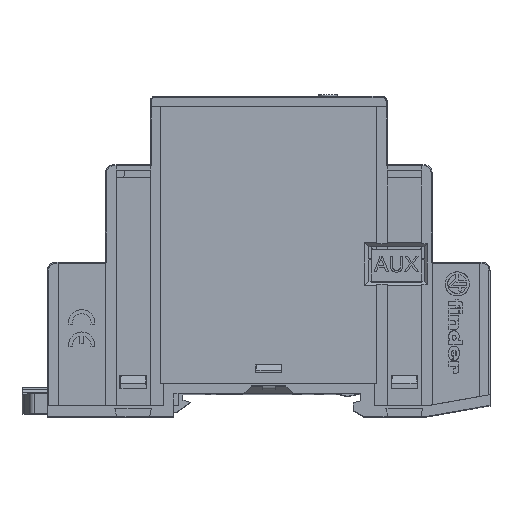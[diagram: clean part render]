
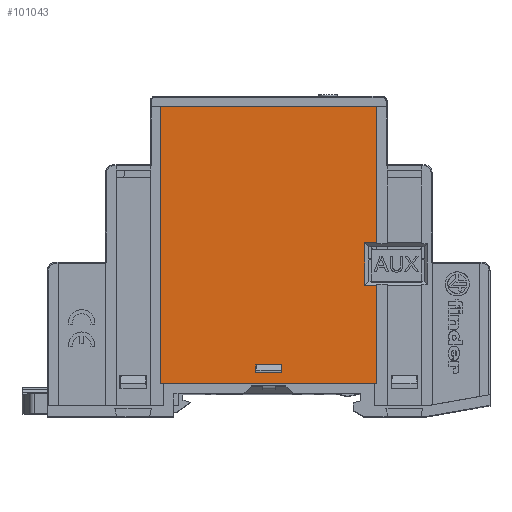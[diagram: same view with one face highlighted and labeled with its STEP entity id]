
A CAD part, top view. The second image highlights one B-rep face of the part: STEP entity #101043.
In plain terms, the highlighted planar face has unit normal (0, 0, 1).
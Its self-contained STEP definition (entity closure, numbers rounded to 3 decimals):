
#9505=LINE('',#163294,#23189);
#9522=LINE('',#163327,#23206);
#9575=LINE('',#163458,#23259);
#9617=LINE('',#163571,#23301);
#9619=LINE('',#163575,#23303);
#9620=LINE('',#163578,#23304);
#9621=LINE('',#163580,#23305);
#9622=LINE('',#163582,#23306);
#9623=LINE('',#163583,#23307);
#9624=LINE('',#163585,#23308);
#9625=LINE('',#163586,#23309);
#9626=LINE('',#163587,#23310);
#23189=VECTOR('',#133035,1000.);
#23206=VECTOR('',#133062,1000.);
#23259=VECTOR('',#133167,1000.);
#23301=VECTOR('',#133229,1000.);
#23303=VECTOR('',#133233,1000.);
#23304=VECTOR('',#133234,1000.);
#23305=VECTOR('',#133235,1000.);
#23306=VECTOR('',#133236,1000.);
#23307=VECTOR('',#133237,1000.);
#23308=VECTOR('',#133238,1000.);
#23309=VECTOR('',#133239,1000.);
#23310=VECTOR('',#133240,1000.);
#30865=PLANE('',#113645);
#50139=ORIENTED_EDGE('',*,*,#69711,.T.);
#50140=ORIENTED_EDGE('',*,*,#69712,.F.);
#50141=ORIENTED_EDGE('',*,*,#69713,.F.);
#50142=ORIENTED_EDGE('',*,*,#69714,.F.);
#50143=ORIENTED_EDGE('',*,*,#69709,.F.);
#50144=ORIENTED_EDGE('',*,*,#69715,.F.);
#50145=ORIENTED_EDGE('',*,*,#69716,.F.);
#50146=ORIENTED_EDGE('',*,*,#69582,.F.);
#50147=ORIENTED_EDGE('',*,*,#69599,.F.);
#50148=ORIENTED_EDGE('',*,*,#69717,.F.);
#50149=ORIENTED_EDGE('',*,*,#69664,.T.);
#50150=ORIENTED_EDGE('',*,*,#69718,.F.);
#69582=EDGE_CURVE('',#81874,#81875,#9505,.T.);
#69599=EDGE_CURVE('',#81886,#81874,#9522,.T.);
#69664=EDGE_CURVE('',#81938,#81937,#9575,.T.);
#69709=EDGE_CURVE('',#81968,#81969,#9617,.T.);
#69711=EDGE_CURVE('',#81970,#81971,#9619,.T.);
#69712=EDGE_CURVE('',#81972,#81971,#9620,.T.);
#69713=EDGE_CURVE('',#81973,#81972,#9621,.T.);
#69714=EDGE_CURVE('',#81970,#81973,#9622,.T.);
#69715=EDGE_CURVE('',#81974,#81968,#9623,.T.);
#69716=EDGE_CURVE('',#81875,#81974,#9624,.T.);
#69717=EDGE_CURVE('',#81938,#81886,#9625,.T.);
#69718=EDGE_CURVE('',#81969,#81937,#9626,.T.);
#81874=VERTEX_POINT('',#163293);
#81875=VERTEX_POINT('',#163295);
#81886=VERTEX_POINT('',#163328);
#81937=VERTEX_POINT('',#163457);
#81938=VERTEX_POINT('',#163459);
#81968=VERTEX_POINT('',#163570);
#81969=VERTEX_POINT('',#163572);
#81970=VERTEX_POINT('',#163576);
#81971=VERTEX_POINT('',#163577);
#81972=VERTEX_POINT('',#163579);
#81973=VERTEX_POINT('',#163581);
#81974=VERTEX_POINT('',#163584);
#90540=EDGE_LOOP('',(#50139,#50140,#50141,#50142));
#90541=EDGE_LOOP('',(#50143,#50144,#50145,#50146,#50147,#50148,#50149,#50150));
#95964=FACE_BOUND('',#90540,.T.);
#95965=FACE_BOUND('',#90541,.T.);
#101043=ADVANCED_FACE('',(#95964,#95965),#30865,.T.);
#113645=AXIS2_PLACEMENT_3D('',#163574,#133231,#133232);
#133035=DIRECTION('',(-1.,0.,0.));
#133062=DIRECTION('',(0.,-1.,0.));
#133167=DIRECTION('',(0.,-1.,0.));
#133229=DIRECTION('',(0.,-1.,0.));
#133231=DIRECTION('',(0.,0.,1.));
#133232=DIRECTION('',(1.,0.,0.));
#133233=DIRECTION('',(0.,-1.,0.));
#133234=DIRECTION('',(1.,0.,0.));
#133235=DIRECTION('',(0.,-1.,0.));
#133236=DIRECTION('',(-1.,0.,0.));
#133237=DIRECTION('',(1.,0.,0.));
#133238=DIRECTION('',(0.,-1.,0.));
#133239=DIRECTION('',(1.,0.,0.));
#133240=DIRECTION('',(-1.,0.,0.));
#163293=CARTESIAN_POINT('',(20.5,-20.3,-100.));
#163294=CARTESIAN_POINT('',(-20.501,-20.3,-100.));
#163295=CARTESIAN_POINT('',(18.2,-20.3,-100.));
#163327=CARTESIAN_POINT('',(20.5,5.5,-100.));
#163328=CARTESIAN_POINT('',(20.5,5.5,-100.));
#163457=CARTESIAN_POINT('',(-20.5,-47.,-100.));
#163458=CARTESIAN_POINT('',(-20.5,5.5,-100.));
#163459=CARTESIAN_POINT('',(-20.5,5.5,-100.));
#163570=CARTESIAN_POINT('',(20.5,-28.4,-100.));
#163571=CARTESIAN_POINT('',(20.5,5.5,-100.));
#163572=CARTESIAN_POINT('',(20.5,-47.,-100.));
#163574=CARTESIAN_POINT('',(-20.501,-47.001,-100.));
#163575=CARTESIAN_POINT('',(2.5,-43.5,-100.));
#163576=CARTESIAN_POINT('',(2.5,-43.5,-100.));
#163577=CARTESIAN_POINT('',(2.5,-45.,-100.));
#163578=CARTESIAN_POINT('',(-2.5,-45.,-100.));
#163579=CARTESIAN_POINT('',(-2.5,-45.,-100.));
#163580=CARTESIAN_POINT('',(-2.5,-43.5,-100.));
#163581=CARTESIAN_POINT('',(-2.5,-43.5,-100.));
#163582=CARTESIAN_POINT('',(2.5,-43.5,-100.));
#163583=CARTESIAN_POINT('',(-20.501,-28.4,-100.));
#163584=CARTESIAN_POINT('',(18.2,-28.4,-100.));
#163585=CARTESIAN_POINT('',(18.2,-47.001,-100.));
#163586=CARTESIAN_POINT('',(-20.5,5.5,-100.));
#163587=CARTESIAN_POINT('',(20.5,-47.,-100.));
